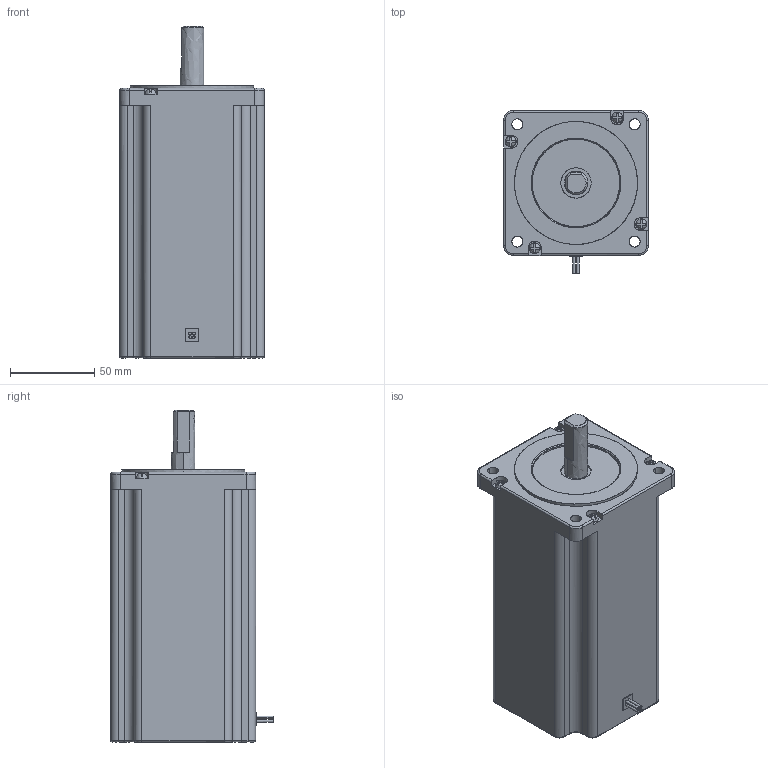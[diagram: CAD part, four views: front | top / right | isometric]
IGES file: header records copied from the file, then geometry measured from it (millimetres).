
Global section: file name: C:\DOCUME~1\PC001\BM-86L-C.igs; preprocessor: I-DEAS 3D IGES Translator 12; date: 20100107.190744; units: millimetre
Bounding box: 86 x 96.5 x 197 mm (x, y, z)
Surface area: 69062 mm2 (no closed solid volume)
Topology: 0 solids, 0 shells, 198 faces, 1061 edges, 1061 vertices
Faces by surface type: bspline 198
